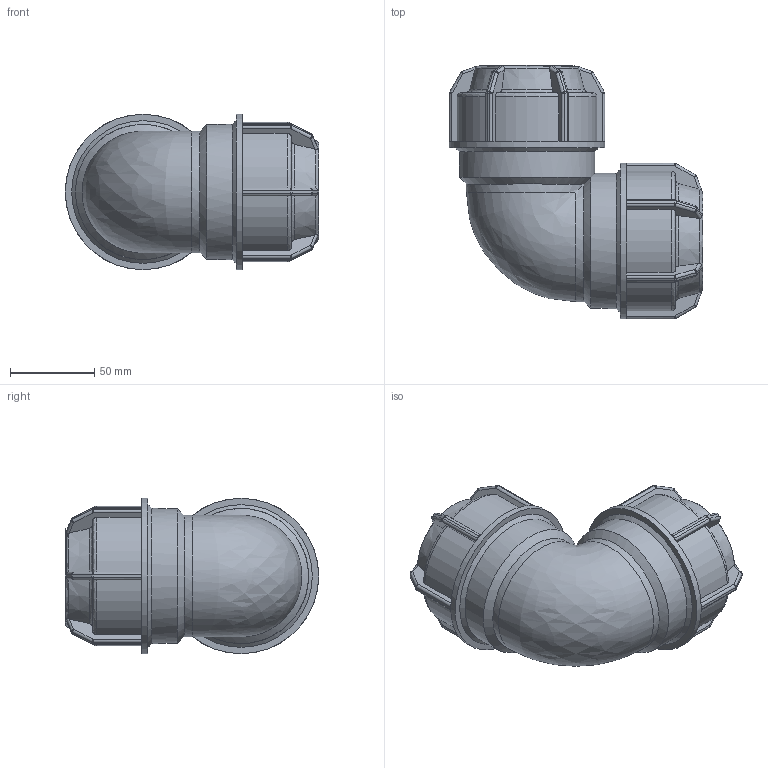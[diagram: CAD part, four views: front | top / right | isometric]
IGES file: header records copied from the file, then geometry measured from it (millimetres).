
Global section: file name: 140500050.ipt; native system: Autodesk Inventor 2015; preprocessor: unknown; author: KIM; date: 20180409.131043; units: millimetre
Bounding box: 150 x 150 x 92 mm (x, y, z)
Volume: 552847.1 mm3; surface area: 93685.7 mm2
Topology: 1 solids, 1 shells, 406 faces, 972 edges, 565 vertices
Faces by surface type: plane 192, cylinder 114, sphere 48, revolution 35, cone 16, bspline 1
Full cylindrical faces by diameter (mm): 80 x2, 92 x2
